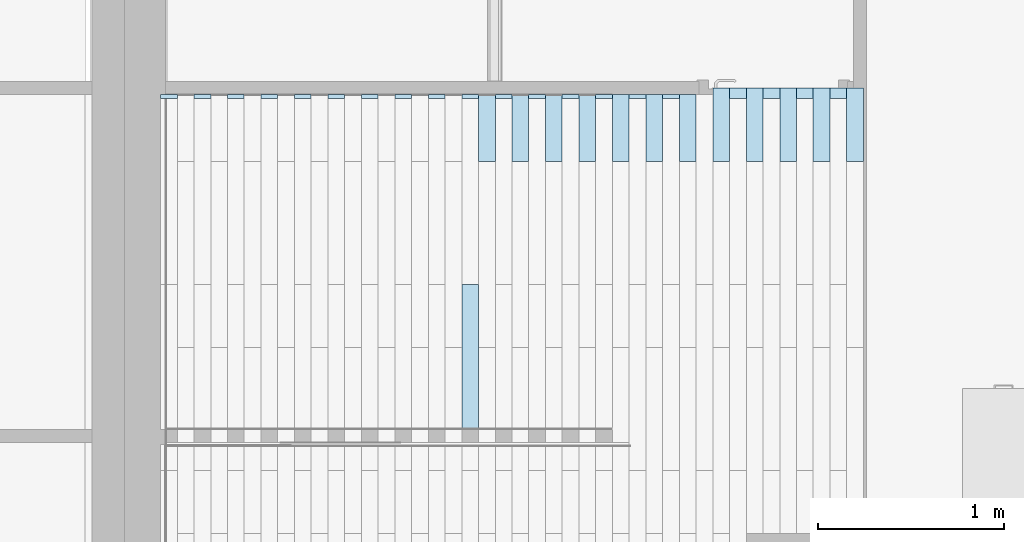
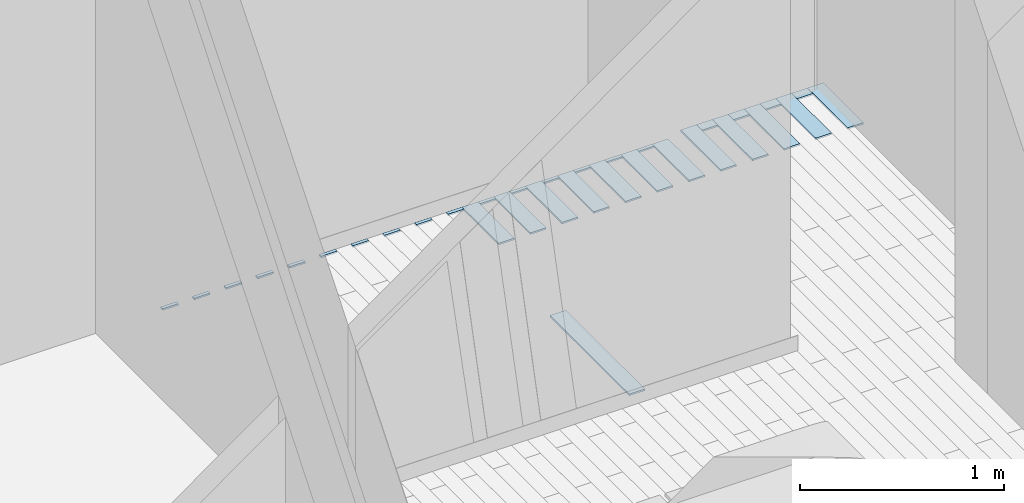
# One storey, part 6 of 50: 33 slabs.
"""IFC2X3 building model written with IfcOpenShell, lengths in metres."""

from ifc_helpers import new_model, entity, si_unit, converted_unit, derived_unit, direction, frame, frame_2d, origin, place, context, subcontext, project, spatial, rectangle, extrude, material, layer, layer_set, layer_usage, element, save


model = new_model("IFC2X3")

# Units and contexts
model_context = context("Model", 3, precision=1e-05, world=origin(), true_north=direction((6.12303176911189e-17, 1.0)))
context_of_model = context(None, 3, precision=1e-05, world=origin(), true_north=direction((6.12303176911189e-17, 1.0)))
body_context = subcontext(model_context, "Body", "Model", "MODEL_VIEW")
ifc_project = project(units=[si_unit("LENGTHUNIT", "METRE"), si_unit("AREAUNIT", "SQUARE_METRE"), si_unit("VOLUMEUNIT", "CUBIC_METRE"), converted_unit("PLANEANGLEUNIT", "DEGREE", entity("IfcRatioMeasure", 0.0174532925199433), si_unit("PLANEANGLEUNIT", "RADIAN"), dimensions=[0, 0, 0, 0, 0, 0, 0]), si_unit("MASSUNIT", "GRAM", prefix="KILO"), si_unit("TIMEUNIT", "SECOND"), si_unit("FREQUENCYUNIT", "HERTZ"), si_unit("THERMODYNAMICTEMPERATUREUNIT", "DEGREE_CELSIUS"), derived_unit("THERMALTRANSMITTANCEUNIT", [(si_unit("MASSUNIT", "GRAM", prefix="KILO"), 1), (si_unit("THERMODYNAMICTEMPERATUREUNIT", "KELVIN"), -1), (si_unit("TIMEUNIT", "SECOND"), -3)]), derived_unit("VOLUMETRICFLOWRATEUNIT", [(si_unit("LENGTHUNIT", "METRE"), 3), (si_unit("TIMEUNIT", "SECOND"), -1)]), si_unit("ELECTRICCURRENTUNIT", "AMPERE"), si_unit("ELECTRICVOLTAGEUNIT", "VOLT"), si_unit("POWERUNIT", "WATT"), si_unit("FORCEUNIT", "NEWTON", prefix="KILO"), si_unit("ILLUMINANCEUNIT", "LUX"), si_unit("LUMINOUSFLUXUNIT", "LUMEN"), si_unit("LUMINOUSINTENSITYUNIT", "CANDELA"), si_unit("PRESSUREUNIT", "PASCAL")], contexts=[model_context, context_of_model])

# Site, building, storey
site_placement = place(None, origin())
site = spatial("IfcSite", under=ifc_project, at=site_placement, Name="Surface", CompositionType="ELEMENT")
building_placement = place(site_placement, origin())
building = spatial("IfcBuilding", under=site, at=building_placement, CompositionType="ELEMENT")
storey_placement = place(building_placement, frame((0.0, 0.0, 2.82)))
storey = spatial("IfcBuildingStorey", under=building, at=storey_placement, Name="ETAGE", CompositionType="ELEMENT", Elevation=2.82)

# Slabs
ifc_material = material(Name="PARQUET BAMBOU")
ifc_layer = layer(ifc_material, 0.01)
ifc_layer_set = layer_set([ifc_layer], Name="Sol:LAME DE BAMBOU")
ifc_layer_usage_1 = layer_usage(ifc_layer_set, "AXIS3", "POSITIVE", 0.0)
slab_1_placement = place(storey_placement, origin())
element("IfcSlab", 1, at=slab_1_placement, inside=storey, material=ifc_layer_usage_1, Name="Sol:LAME DE BAMBOU", ObjectType="Sol:LAME DE BAMBOU", PredefinedType="FLOOR", context=body_context, shape_type="SweptSolid", body=[
    extrude(rectangle(XDim=0.0200000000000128, YDim=0.0899999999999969, at=frame_2d((-8.66320903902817e-15, 8.66320903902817e-15), x_axis=(1.0, 0.0))), frame((86.466089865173, 86.5975239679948, 0.05), z_axis=(0.0, 0.0, -1.0), x_axis=(0.0, 1.0, 0.0)), (0.0, 0.0, 1.0), 0.00999999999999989),
])
ifc_layer_usage_2 = layer_usage(ifc_layer_set, "AXIS3", "POSITIVE", 0.0)
slab_2_placement = place(storey_placement, origin())
element("IfcSlab", 2, at=slab_2_placement, inside=storey, material=ifc_layer_usage_2, Name="Sol:LAME DE BAMBOU", ObjectType="Sol:LAME DE BAMBOU", PredefinedType="FLOOR", context=body_context, shape_type="SweptSolid", body=[
    extrude(rectangle(XDim=0.360000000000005, YDim=0.0899999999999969, at=frame_2d((-8.67361737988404e-15, 8.66320903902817e-15), x_axis=(1.0, 0.0))), frame((86.556089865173, 86.4275239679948, 0.05), z_axis=(0.0, 0.0, -1.0), x_axis=(0.0, 1.0, 0.0)), (0.0, 0.0, 1.0), 0.00999999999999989),
])
ifc_layer_usage_3 = layer_usage(ifc_layer_set, "AXIS3", "POSITIVE", 0.0)
slab_3_placement = place(storey_placement, origin())
element("IfcSlab", 3, at=slab_3_placement, inside=storey, material=ifc_layer_usage_3, Name="Sol:LAME DE BAMBOU", ObjectType="Sol:LAME DE BAMBOU", PredefinedType="FLOOR", context=body_context, shape_type="SweptSolid", body=[
    extrude(rectangle(XDim=0.394999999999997, YDim=0.0899999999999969, at=frame_2d((0.0, 8.66320903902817e-15), x_axis=(1.0, 0.0))), frame((86.916089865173, 86.4450239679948, 0.05), z_axis=(0.0, 0.0, -1.0), x_axis=(0.0, 1.0, 0.0)), (0.0, 0.0, 1.0), 0.00999999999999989),
])
ifc_layer_usage_4 = layer_usage(ifc_layer_set, "AXIS3", "POSITIVE", 0.0)
slab_4_placement = place(storey_placement, origin())
element("IfcSlab", 4, at=slab_4_placement, inside=storey, material=ifc_layer_usage_4, Name="Sol:LAME DE BAMBOU", ObjectType="Sol:LAME DE BAMBOU", PredefinedType="FLOOR", context=body_context, shape_type="SweptSolid", body=[
    extrude(rectangle(XDim=0.360000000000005, YDim=0.0899999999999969, at=frame_2d((-8.67361737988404e-15, -8.66320903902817e-15), x_axis=(1.0, 0.0))), frame((86.736089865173, 86.4275239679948, 0.05), z_axis=(0.0, 0.0, -1.0), x_axis=(0.0, 1.0, 0.0)), (0.0, 0.0, 1.0), 0.00999999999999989),
])
ifc_layer_usage_5 = layer_usage(ifc_layer_set, "AXIS3", "POSITIVE", 0.0)
slab_5_placement = place(storey_placement, origin())
element("IfcSlab", 5, at=slab_5_placement, inside=storey, material=ifc_layer_usage_5, Name="Sol:LAME DE BAMBOU", ObjectType="Sol:LAME DE BAMBOU", PredefinedType="FLOOR", context=body_context, shape_type="SweptSolid", body=[
    extrude(rectangle(XDim=0.0200000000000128, YDim=0.0899999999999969, at=frame_2d((-8.66320903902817e-15, 8.66320903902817e-15), x_axis=(1.0, 0.0))), frame((86.646089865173, 86.5975239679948, 0.05), z_axis=(0.0, 0.0, -1.0), x_axis=(0.0, 1.0, 0.0)), (0.0, 0.0, 1.0), 0.00999999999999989),
])
ifc_layer_usage_6 = layer_usage(ifc_layer_set, "AXIS3", "POSITIVE", 0.0)
slab_6_placement = place(storey_placement, origin())
element("IfcSlab", 6, at=slab_6_placement, inside=storey, material=ifc_layer_usage_6, Name="Sol:LAME DE BAMBOU", ObjectType="Sol:LAME DE BAMBOU", PredefinedType="FLOOR", context=body_context, shape_type="SweptSolid", body=[
    extrude(rectangle(XDim=0.0550000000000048, YDim=0.0899999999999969, at=frame_2d((0.0, 8.66320903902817e-15), x_axis=(1.0, 0.0))), frame((87.006089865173, 86.6150239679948, 0.05), z_axis=(0.0, 0.0, -1.0), x_axis=(0.0, 1.0, 0.0)), (0.0, 0.0, 1.0), 0.00999999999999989),
])
ifc_layer_usage_7 = layer_usage(ifc_layer_set, "AXIS3", "POSITIVE", 0.0)
slab_7_placement = place(storey_placement, origin())
element("IfcSlab", 7, at=slab_7_placement, inside=storey, material=ifc_layer_usage_7, Name="Sol:LAME DE BAMBOU", ObjectType="Sol:LAME DE BAMBOU", PredefinedType="FLOOR", context=body_context, shape_type="SweptSolid", body=[
    extrude(rectangle(XDim=0.394999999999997, YDim=0.0899999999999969, at=frame_2d((0.0, 8.66320903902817e-15), x_axis=(1.0, 0.0))), frame((87.0961607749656, 86.4450239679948, 0.05), z_axis=(0.0, 0.0, -1.0), x_axis=(0.0, 1.0, 0.0)), (0.0, 0.0, 1.0), 0.00999999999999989),
])
ifc_layer_usage_8 = layer_usage(ifc_layer_set, "AXIS3", "POSITIVE", 0.0)
slab_8_placement = place(storey_placement, origin())
element("IfcSlab", 8, at=slab_8_placement, inside=storey, material=ifc_layer_usage_8, Name="Sol:LAME DE BAMBOU", ObjectType="Sol:LAME DE BAMBOU", PredefinedType="FLOOR", context=body_context, shape_type="SweptSolid", body=[
    extrude(rectangle(XDim=0.0550000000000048, YDim=0.0899999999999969, at=frame_2d((0.0, 8.66320903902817e-15), x_axis=(1.0, 0.0))), frame((87.1861607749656, 86.6150239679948, 0.05), z_axis=(0.0, 0.0, -1.0), x_axis=(0.0, 1.0, 0.0)), (0.0, 0.0, 1.0), 0.00999999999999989),
])
ifc_layer_usage_9 = layer_usage(ifc_layer_set, "AXIS3", "POSITIVE", 0.0)
slab_9_placement = place(storey_placement, origin())
element("IfcSlab", 9, at=slab_9_placement, inside=storey, material=ifc_layer_usage_9, Name="Sol:LAME DE BAMBOU", ObjectType="Sol:LAME DE BAMBOU", PredefinedType="FLOOR", context=body_context, shape_type="SweptSolid", body=[
    extrude(rectangle(XDim=0.394999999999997, YDim=0.0899999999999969, at=frame_2d((0.0, 8.66320903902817e-15), x_axis=(1.0, 0.0))), frame((87.2761607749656, 86.4450239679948, 0.05), z_axis=(0.0, 0.0, -1.0), x_axis=(0.0, 1.0, 0.0)), (0.0, 0.0, 1.0), 0.00999999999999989),
])
ifc_layer_usage_10 = layer_usage(ifc_layer_set, "AXIS3", "POSITIVE", 0.0)
slab_10_placement = place(storey_placement, origin())
element("IfcSlab", 10, at=slab_10_placement, inside=storey, material=ifc_layer_usage_10, Name="Sol:LAME DE BAMBOU", ObjectType="Sol:LAME DE BAMBOU", PredefinedType="FLOOR", context=body_context, shape_type="SweptSolid", body=[
    extrude(rectangle(XDim=0.0550000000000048, YDim=0.0899999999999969, at=frame_2d((0.0, -8.66320903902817e-15), x_axis=(1.0, 0.0))), frame((87.3661607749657, 86.6150239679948, 0.05), z_axis=(0.0, 0.0, -1.0), x_axis=(0.0, 1.0, 0.0)), (0.0, 0.0, 1.0), 0.00999999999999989),
])
ifc_layer_usage_11 = layer_usage(ifc_layer_set, "AXIS3", "POSITIVE", 0.0)
slab_11_placement = place(storey_placement, origin())
element("IfcSlab", 11, at=slab_11_placement, inside=storey, material=ifc_layer_usage_11, Name="Sol:LAME DE BAMBOU", ObjectType="Sol:LAME DE BAMBOU", PredefinedType="FLOOR", context=body_context, shape_type="SweptSolid", body=[
    extrude(rectangle(XDim=0.394999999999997, YDim=0.0899999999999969, at=frame_2d((0.0, 8.66320903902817e-15), x_axis=(1.0, 0.0))), frame((87.4561607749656, 86.4450239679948, 0.05), z_axis=(0.0, 0.0, -1.0), x_axis=(0.0, 1.0, 0.0)), (0.0, 0.0, 1.0), 0.00999999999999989),
])
ifc_layer_usage_12 = layer_usage(ifc_layer_set, "AXIS3", "POSITIVE", 0.0)
slab_12_placement = place(storey_placement, origin())
element("IfcSlab", 12, at=slab_12_placement, inside=storey, material=ifc_layer_usage_12, Name="Sol:LAME DE BAMBOU", ObjectType="Sol:LAME DE BAMBOU", PredefinedType="FLOOR", context=body_context, shape_type="SweptSolid", body=[
    extrude(rectangle(XDim=0.0550000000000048, YDim=0.0899999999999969, at=frame_2d((0.0, 8.66320903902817e-15), x_axis=(1.0, 0.0))), frame((87.5461607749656, 86.6150239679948, 0.05), z_axis=(0.0, 0.0, -1.0), x_axis=(0.0, 1.0, 0.0)), (0.0, 0.0, 1.0), 0.00999999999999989),
])
ifc_layer_usage_13 = layer_usage(ifc_layer_set, "AXIS3", "POSITIVE", 0.0)
slab_13_placement = place(storey_placement, origin())
element("IfcSlab", 13, at=slab_13_placement, inside=storey, material=ifc_layer_usage_13, Name="Sol:LAME DE BAMBOU", ObjectType="Sol:LAME DE BAMBOU", PredefinedType="FLOOR", context=body_context, shape_type="SweptSolid", body=[
    extrude(rectangle(XDim=0.394999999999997, YDim=0.0899999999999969, at=frame_2d((0.0, 8.66320903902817e-15), x_axis=(1.0, 0.0))), frame((87.6361607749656, 86.4450239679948, 0.05), z_axis=(0.0, 0.0, -1.0), x_axis=(0.0, 1.0, 0.0)), (0.0, 0.0, 1.0), 0.00999999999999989),
])
ifc_layer_usage_14 = layer_usage(ifc_layer_set, "AXIS3", "POSITIVE", 0.0)
slab_14_placement = place(storey_placement, origin())
element("IfcSlab", 14, at=slab_14_placement, inside=storey, material=ifc_layer_usage_14, Name="Sol:LAME DE BAMBOU", ObjectType="Sol:LAME DE BAMBOU", PredefinedType="FLOOR", context=body_context, shape_type="SweptSolid", body=[
    extrude(rectangle(XDim=0.360000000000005, YDim=0.0899999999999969, at=frame_2d((-8.67361737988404e-15, -8.66320903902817e-15), x_axis=(1.0, 0.0))), frame((86.376089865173, 86.4275239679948, 0.05), z_axis=(0.0, 0.0, -1.0), x_axis=(0.0, 1.0, 0.0)), (0.0, 0.0, 1.0), 0.00999999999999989),
])
ifc_layer_usage_15 = layer_usage(ifc_layer_set, "AXIS3", "POSITIVE", 0.0)
slab_15_placement = place(storey_placement, origin())
element("IfcSlab", 15, at=slab_15_placement, inside=storey, material=ifc_layer_usage_15, Name="Sol:LAME DE BAMBOU", ObjectType="Sol:LAME DE BAMBOU", PredefinedType="FLOOR", context=body_context, shape_type="SweptSolid", body=[
    extrude(rectangle(XDim=0.0200000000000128, YDim=0.0899999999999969, at=frame_2d((-8.66320903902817e-15, 8.66320903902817e-15), x_axis=(1.0, 0.0))), frame((86.286089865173, 86.5975239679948, 0.05), z_axis=(0.0, 0.0, -1.0), x_axis=(0.0, 1.0, 0.0)), (0.0, 0.0, 1.0), 0.00999999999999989),
])
ifc_layer_usage_16 = layer_usage(ifc_layer_set, "AXIS3", "POSITIVE", 0.0)
slab_16_placement = place(storey_placement, origin())
element("IfcSlab", 16, at=slab_16_placement, inside=storey, material=ifc_layer_usage_16, Name="Sol:LAME DE BAMBOU", ObjectType="Sol:LAME DE BAMBOU", PredefinedType="FLOOR", context=body_context, shape_type="SweptSolid", body=[
    extrude(rectangle(XDim=0.360000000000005, YDim=0.0899999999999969, at=frame_2d((-8.67361737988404e-15, 8.66320903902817e-15), x_axis=(1.0, 0.0))), frame((86.1960898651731, 86.4275239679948, 0.05), z_axis=(0.0, 0.0, -1.0), x_axis=(0.0, 1.0, 0.0)), (0.0, 0.0, 1.0), 0.00999999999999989),
])
ifc_layer_usage_17 = layer_usage(ifc_layer_set, "AXIS3", "POSITIVE", 0.0)
slab_17_placement = place(storey_placement, origin())
element("IfcSlab", 17, at=slab_17_placement, inside=storey, material=ifc_layer_usage_17, Name="Sol:LAME DE BAMBOU", ObjectType="Sol:LAME DE BAMBOU", PredefinedType="FLOOR", context=body_context, shape_type="SweptSolid", body=[
    extrude(rectangle(XDim=0.0200000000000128, YDim=0.0899999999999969, at=frame_2d((-8.66320903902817e-15, 8.66320903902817e-15), x_axis=(1.0, 0.0))), frame((86.106089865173, 86.5975239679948, 0.05), z_axis=(0.0, 0.0, -1.0), x_axis=(0.0, 1.0, 0.0)), (0.0, 0.0, 1.0), 0.00999999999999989),
])
ifc_layer_usage_18 = layer_usage(ifc_layer_set, "AXIS3", "POSITIVE", 0.0)
slab_18_placement = place(storey_placement, origin())
element("IfcSlab", 18, at=slab_18_placement, inside=storey, material=ifc_layer_usage_18, Name="Sol:LAME DE BAMBOU", ObjectType="Sol:LAME DE BAMBOU", PredefinedType="FLOOR", context=body_context, shape_type="SweptSolid", body=[
    extrude(rectangle(XDim=0.360000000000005, YDim=0.0899999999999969, at=frame_2d((-8.67361737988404e-15, 8.66320903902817e-15), x_axis=(1.0, 0.0))), frame((86.0160898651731, 86.4275239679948, 0.05), z_axis=(0.0, 0.0, -1.0), x_axis=(0.0, 1.0, 0.0)), (0.0, 0.0, 1.0), 0.00999999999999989),
])
ifc_layer_usage_19 = layer_usage(ifc_layer_set, "AXIS3", "POSITIVE", 0.0)
slab_19_placement = place(storey_placement, origin())
element("IfcSlab", 19, at=slab_19_placement, inside=storey, material=ifc_layer_usage_19, Name="Sol:LAME DE BAMBOU", ObjectType="Sol:LAME DE BAMBOU", PredefinedType="FLOOR", context=body_context, shape_type="SweptSolid", body=[
    extrude(rectangle(XDim=0.0200000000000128, YDim=0.0899999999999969, at=frame_2d((-8.66320903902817e-15, 8.66320903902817e-15), x_axis=(1.0, 0.0))), frame((85.926089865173, 86.5975239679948, 0.05), z_axis=(0.0, 0.0, -1.0), x_axis=(0.0, 1.0, 0.0)), (0.0, 0.0, 1.0), 0.00999999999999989),
])
ifc_layer_usage_20 = layer_usage(ifc_layer_set, "AXIS3", "POSITIVE", 0.0)
slab_20_placement = place(storey_placement, origin())
element("IfcSlab", 20, at=slab_20_placement, inside=storey, material=ifc_layer_usage_20, Name="Sol:LAME DE BAMBOU", ObjectType="Sol:LAME DE BAMBOU", PredefinedType="FLOOR", context=body_context, shape_type="SweptSolid", body=[
    extrude(rectangle(XDim=0.360000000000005, YDim=0.0899999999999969, at=frame_2d((-8.67361737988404e-15, 8.66320903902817e-15), x_axis=(1.0, 0.0))), frame((85.8360898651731, 86.4275239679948, 0.05), z_axis=(0.0, 0.0, -1.0), x_axis=(0.0, 1.0, 0.0)), (0.0, 0.0, 1.0), 0.00999999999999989),
])
ifc_layer_usage_21 = layer_usage(ifc_layer_set, "AXIS3", "POSITIVE", 0.0)
slab_21_placement = place(storey_placement, origin())
element("IfcSlab", 21, at=slab_21_placement, inside=storey, material=ifc_layer_usage_21, Name="Sol:LAME DE BAMBOU", ObjectType="Sol:LAME DE BAMBOU", PredefinedType="FLOOR", context=body_context, shape_type="SweptSolid", body=[
    extrude(rectangle(XDim=0.0200000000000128, YDim=0.0899999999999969, at=frame_2d((-8.66320903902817e-15, 8.66320903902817e-15), x_axis=(1.0, 0.0))), frame((85.746089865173, 86.5975239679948, 0.05), z_axis=(0.0, 0.0, -1.0), x_axis=(0.0, 1.0, 0.0)), (0.0, 0.0, 1.0), 0.00999999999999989),
])
ifc_layer_usage_22 = layer_usage(ifc_layer_set, "AXIS3", "POSITIVE", 0.0)
slab_22_placement = place(storey_placement, origin())
element("IfcSlab", 22, at=slab_22_placement, inside=storey, material=ifc_layer_usage_22, Name="Sol:LAME DE BAMBOU", ObjectType="Sol:LAME DE BAMBOU", PredefinedType="FLOOR", context=body_context, shape_type="SweptSolid", body=[
    extrude(rectangle(XDim=0.360000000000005, YDim=0.0899999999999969, at=frame_2d((-8.67361737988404e-15, 8.66320903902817e-15), x_axis=(1.0, 0.0))), frame((85.6560898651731, 86.4275239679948, 0.05), z_axis=(0.0, 0.0, -1.0), x_axis=(0.0, 1.0, 0.0)), (0.0, 0.0, 1.0), 0.00999999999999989),
])
ifc_layer_usage_23 = layer_usage(ifc_layer_set, "AXIS3", "POSITIVE", 0.0)
slab_23_placement = place(storey_placement, origin())
element("IfcSlab", 23, at=slab_23_placement, inside=storey, material=ifc_layer_usage_23, Name="Sol:LAME DE BAMBOU", ObjectType="Sol:LAME DE BAMBOU", PredefinedType="FLOOR", context=body_context, shape_type="SweptSolid", body=[
    extrude(rectangle(XDim=0.779999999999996, YDim=0.0899999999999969, at=frame_2d((0.0, 8.66320903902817e-15), x_axis=(1.0, 0.0))), frame((85.566089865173, 85.1975239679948, 0.05), z_axis=(0.0, 0.0, -1.0), x_axis=(0.0, 1.0, 0.0)), (0.0, 0.0, 1.0), 0.00999999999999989),
])
ifc_layer_usage_24 = layer_usage(ifc_layer_set, "AXIS3", "POSITIVE", 0.0)
slab_24_placement = place(storey_placement, origin())
element("IfcSlab", 24, at=slab_24_placement, inside=storey, material=ifc_layer_usage_24, Name="Sol:LAME DE BAMBOU", ObjectType="Sol:LAME DE BAMBOU", PredefinedType="FLOOR", context=body_context, shape_type="SweptSolid", body=[
    extrude(rectangle(XDim=0.0200000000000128, YDim=0.0899999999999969, at=frame_2d((-8.66320903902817e-15, 8.66320903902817e-15), x_axis=(1.0, 0.0))), frame((85.566089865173, 86.5975239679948, 0.05), z_axis=(0.0, 0.0, -1.0), x_axis=(0.0, 1.0, 0.0)), (0.0, 0.0, 1.0), 0.00999999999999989),
])
ifc_layer_usage_25 = layer_usage(ifc_layer_set, "AXIS3", "POSITIVE", 0.0)
slab_25_placement = place(storey_placement, origin())
element("IfcSlab", 25, at=slab_25_placement, inside=storey, material=ifc_layer_usage_25, Name="Sol:LAME DE BAMBOU", ObjectType="Sol:LAME DE BAMBOU", PredefinedType="FLOOR", context=body_context, shape_type="SweptSolid", body=[
    extrude(rectangle(XDim=0.0200000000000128, YDim=0.0899999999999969, at=frame_2d((-8.66320903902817e-15, 8.66320903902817e-15), x_axis=(1.0, 0.0))), frame((85.386089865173, 86.5975239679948, 0.05), z_axis=(0.0, 0.0, -1.0), x_axis=(0.0, 1.0, 0.0)), (0.0, 0.0, 1.0), 0.00999999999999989),
])
ifc_layer_usage_26 = layer_usage(ifc_layer_set, "AXIS3", "POSITIVE", 0.0)
slab_26_placement = place(storey_placement, origin())
element("IfcSlab", 26, at=slab_26_placement, inside=storey, material=ifc_layer_usage_26, Name="Sol:LAME DE BAMBOU", ObjectType="Sol:LAME DE BAMBOU", PredefinedType="FLOOR", context=body_context, shape_type="SweptSolid", body=[
    extrude(rectangle(XDim=0.0200000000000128, YDim=0.0899999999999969, at=frame_2d((-8.66320903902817e-15, 8.66320903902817e-15), x_axis=(1.0, 0.0))), frame((85.206089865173, 86.5975239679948, 0.05), z_axis=(0.0, 0.0, -1.0), x_axis=(0.0, 1.0, 0.0)), (0.0, 0.0, 1.0), 0.00999999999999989),
])
ifc_layer_usage_27 = layer_usage(ifc_layer_set, "AXIS3", "POSITIVE", 0.0)
slab_27_placement = place(storey_placement, origin())
element("IfcSlab", 27, at=slab_27_placement, inside=storey, material=ifc_layer_usage_27, Name="Sol:LAME DE BAMBOU", ObjectType="Sol:LAME DE BAMBOU", PredefinedType="FLOOR", context=body_context, shape_type="SweptSolid", body=[
    extrude(rectangle(XDim=0.0200000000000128, YDim=0.0899999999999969, at=frame_2d((-8.66320903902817e-15, 8.66320903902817e-15), x_axis=(1.0, 0.0))), frame((85.0260898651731, 86.5975239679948, 0.05), z_axis=(0.0, 0.0, -1.0), x_axis=(0.0, 1.0, 0.0)), (0.0, 0.0, 1.0), 0.00999999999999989),
])
ifc_layer_usage_28 = layer_usage(ifc_layer_set, "AXIS3", "POSITIVE", 0.0)
slab_28_placement = place(storey_placement, origin())
element("IfcSlab", 28, at=slab_28_placement, inside=storey, material=ifc_layer_usage_28, Name="Sol:LAME DE BAMBOU", ObjectType="Sol:LAME DE BAMBOU", PredefinedType="FLOOR", context=body_context, shape_type="SweptSolid", body=[
    extrude(rectangle(XDim=0.0200000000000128, YDim=0.0899999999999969, at=frame_2d((-8.66320903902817e-15, -8.66320903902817e-15), x_axis=(1.0, 0.0))), frame((84.8460898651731, 86.5975239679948, 0.05), z_axis=(0.0, 0.0, -1.0), x_axis=(0.0, 1.0, 0.0)), (0.0, 0.0, 1.0), 0.00999999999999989),
])
ifc_layer_usage_29 = layer_usage(ifc_layer_set, "AXIS3", "POSITIVE", 0.0)
slab_29_placement = place(storey_placement, origin())
element("IfcSlab", 29, at=slab_29_placement, inside=storey, material=ifc_layer_usage_29, Name="Sol:LAME DE BAMBOU", ObjectType="Sol:LAME DE BAMBOU", PredefinedType="FLOOR", context=body_context, shape_type="SweptSolid", body=[
    extrude(rectangle(XDim=0.0200000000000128, YDim=0.0899999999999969, at=frame_2d((-8.66320903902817e-15, 8.66320903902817e-15), x_axis=(1.0, 0.0))), frame((84.6660898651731, 86.5975239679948, 0.05), z_axis=(0.0, 0.0, -1.0), x_axis=(0.0, 1.0, 0.0)), (0.0, 0.0, 1.0), 0.00999999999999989),
])
ifc_layer_usage_30 = layer_usage(ifc_layer_set, "AXIS3", "POSITIVE", 0.0)
slab_30_placement = place(storey_placement, origin())
element("IfcSlab", 30, at=slab_30_placement, inside=storey, material=ifc_layer_usage_30, Name="Sol:LAME DE BAMBOU", ObjectType="Sol:LAME DE BAMBOU", PredefinedType="FLOOR", context=body_context, shape_type="SweptSolid", body=[
    extrude(rectangle(XDim=0.0200000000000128, YDim=0.0899999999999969, at=frame_2d((-8.66320903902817e-15, -8.66320903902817e-15), x_axis=(1.0, 0.0))), frame((84.4860898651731, 86.5975239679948, 0.05), z_axis=(0.0, 0.0, -1.0), x_axis=(0.0, 1.0, 0.0)), (0.0, 0.0, 1.0), 0.00999999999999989),
])
ifc_layer_usage_31 = layer_usage(ifc_layer_set, "AXIS3", "POSITIVE", 0.0)
slab_31_placement = place(storey_placement, origin())
element("IfcSlab", 31, at=slab_31_placement, inside=storey, material=ifc_layer_usage_31, Name="Sol:LAME DE BAMBOU", ObjectType="Sol:LAME DE BAMBOU", PredefinedType="FLOOR", context=body_context, shape_type="SweptSolid", body=[
    extrude(rectangle(XDim=0.0200000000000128, YDim=0.0899999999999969, at=frame_2d((-8.66320903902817e-15, 8.66320903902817e-15), x_axis=(1.0, 0.0))), frame((84.3060898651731, 86.5975239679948, 0.05), z_axis=(0.0, 0.0, -1.0), x_axis=(0.0, 1.0, 0.0)), (0.0, 0.0, 1.0), 0.00999999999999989),
])
ifc_layer_usage_32 = layer_usage(ifc_layer_set, "AXIS3", "POSITIVE", 0.0)
slab_32_placement = place(storey_placement, origin())
element("IfcSlab", 32, at=slab_32_placement, inside=storey, material=ifc_layer_usage_32, Name="Sol:LAME DE BAMBOU", ObjectType="Sol:LAME DE BAMBOU", PredefinedType="FLOOR", context=body_context, shape_type="SweptSolid", body=[
    extrude(rectangle(XDim=0.0200000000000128, YDim=0.0899999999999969, at=frame_2d((-8.66320903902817e-15, -8.66320903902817e-15), x_axis=(1.0, 0.0))), frame((84.1260898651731, 86.5975239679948, 0.05), z_axis=(0.0, 0.0, -1.0), x_axis=(0.0, 1.0, 0.0)), (0.0, 0.0, 1.0), 0.00999999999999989),
])
ifc_layer_usage_33 = layer_usage(ifc_layer_set, "AXIS3", "POSITIVE", 0.0)
slab_33_placement = place(storey_placement, origin())
element("IfcSlab", 33, at=slab_33_placement, inside=storey, material=ifc_layer_usage_33, Name="Sol:LAME DE BAMBOU", ObjectType="Sol:LAME DE BAMBOU", PredefinedType="FLOOR", context=body_context, shape_type="SweptSolid", body=[
    extrude(rectangle(XDim=0.0200000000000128, YDim=0.0899999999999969, at=frame_2d((-8.66320903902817e-15, 8.66320903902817e-15), x_axis=(1.0, 0.0))), frame((83.9460898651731, 86.5975239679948, 0.05), z_axis=(0.0, 0.0, -1.0), x_axis=(0.0, 1.0, 0.0)), (0.0, 0.0, 1.0), 0.00999999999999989),
])

save(model, "model.ifc")
